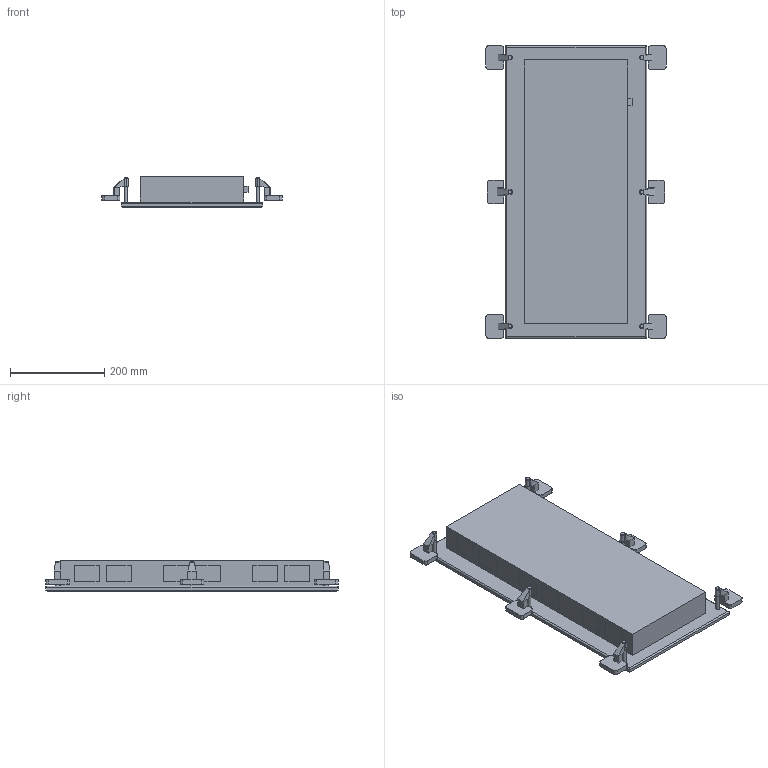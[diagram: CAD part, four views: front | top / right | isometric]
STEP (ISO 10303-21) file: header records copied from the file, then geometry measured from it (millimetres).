
FILE_DESCRIPTION(/* description */ (''),/* implementation_level */ '2;1');
FILE_NAME(/* name */ 'DE Plan 600.stp',/* time_stamp */ '2024-08-21T15:51:29+02:00',/* author */ ('d.streicher'),/* organization */ (''),/* preprocessor_version */ 'ST-DEVELOPER v20',/* originating_system */ 'Autodesk Inventor 2025',/* authorisation */ '');
FILE_SCHEMA (('AUTOMOTIVE_DESIGN { 1 0 10303 214 3 1 1 }'));
Length unit declared in the file: millimetre
Products named in the file (1): DE Plan 600
Bounding box: 382 x 620 x 67 mm (x, y, z)
Volume: 9138237.7 mm3; surface area: 528306.8 mm2
Topology: 1 solids, 1 shells, 241 faces, 603 edges, 427 vertices
Faces by surface type: plane 177, cylinder 52, bspline 12
Full cylindrical faces by diameter (mm): 8 x18
Entity records: 7391 total; most frequent: CARTESIAN_POINT 1419, DIRECTION 1144, ORIENTED_EDGE 1140, EDGE_CURVE 570, LINE 462, VECTOR 462, VERTEX_POINT 356, AXIS2_PLACEMENT_3D 341
